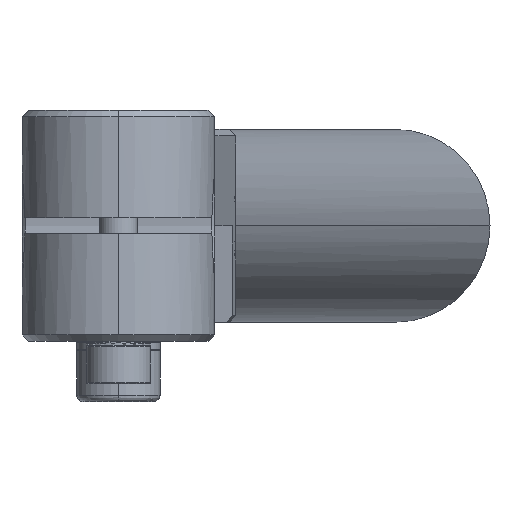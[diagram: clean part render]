
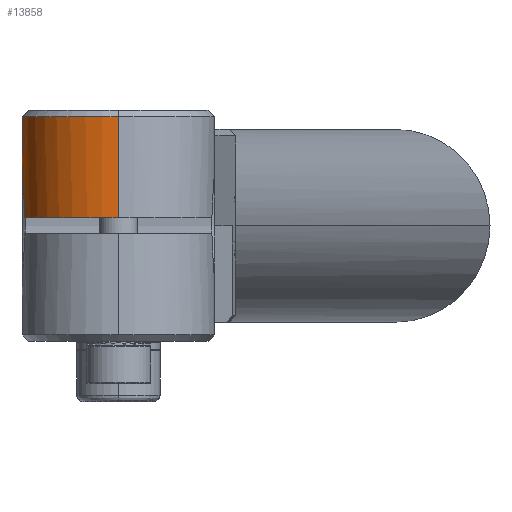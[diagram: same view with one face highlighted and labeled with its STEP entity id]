
A CAD part, left-side view. The second image highlights one B-rep face of the part: STEP entity #13858.
In plain terms, the highlighted cylindrical face has radius 15 mm (diameter 30 mm), a partial arc.
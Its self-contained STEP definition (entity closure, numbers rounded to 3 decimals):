
#127 = CARTESIAN_POINT ( 'NONE',  ( 14.923, 42.413, 6.534 ) ) ;
#1121 = FACE_OUTER_BOUND ( 'NONE', #22830, .T. ) ;
#1309 = CARTESIAN_POINT ( 'NONE',  ( 2.071, 27.564, 17. ) ) ;
#1477 = CARTESIAN_POINT ( 'NONE',  ( 17.071, 42.564, 17. ) ) ;
#1595 = VECTOR ( 'NONE', #5335, 1000. ) ;
#1640 = DIRECTION ( 'NONE',  ( -1., 0., 0. ) ) ;
#2233 = CARTESIAN_POINT ( 'NONE',  ( 16.103, 42.539, 8.573 ) ) ;
#3173 = EDGE_CURVE ( 'NONE', #5479, #7105, #7845, .T. ) ;
#3349 = DIRECTION ( 'NONE',  ( -1., 0., 0. ) ) ;
#4097 = CIRCLE ( 'NONE', #13882, 15. ) ;
#4237 = CARTESIAN_POINT ( 'NONE',  ( 17.071, 27.564, 17. ) ) ;
#4349 = CARTESIAN_POINT ( 'NONE',  ( 17.071, 42.564, 9.811 ) ) ;
#5335 = DIRECTION ( 'NONE',  ( 0., 0., 1. ) ) ;
#5381 = CARTESIAN_POINT ( 'NONE',  ( 17.071, 27.564, 17. ) ) ;
#5479 = VERTEX_POINT ( 'NONE', #8843 ) ;
#6246 = AXIS2_PLACEMENT_3D ( 'NONE', #5381, #15887, #3349 ) ;
#6345 = DIRECTION ( 'NONE',  ( -1., 0., 0. ) ) ;
#6712 = CARTESIAN_POINT ( 'NONE',  ( 17.071, 42.564, 9.125 ) ) ;
#7105 = VERTEX_POINT ( 'NONE', #1477 ) ;
#7845 = LINE ( 'NONE', #6712, #1595 ) ;
#8696 = EDGE_CURVE ( 'NONE', #7105, #24302, #12970, .T. ) ;
#8843 = CARTESIAN_POINT ( 'NONE',  ( 17.071, 42.564, 9.811 ) ) ;
#8845 = CARTESIAN_POINT ( 'NONE',  ( 2.071, 27.564, 17. ) ) ;
#9253 = ORIENTED_EDGE ( 'NONE', *, *, #24617, .F. ) ;
#10610 = CARTESIAN_POINT ( 'NONE',  ( 13.696, 42.181, 2.814 ) ) ;
#11408 = VERTEX_POINT ( 'NONE', #26743 ) ;
#11450 = LINE ( 'NONE', #8845, #16408 ) ;
#12411 = CYLINDRICAL_SURFACE ( 'NONE', #6246, 15. ) ;
#12709 = CARTESIAN_POINT ( 'NONE',  ( 14.317, 42.312, 5.087 ) ) ;
#12970 = CIRCLE ( 'NONE', #18929, 15. ) ;
#13858 = ADVANCED_FACE ( 'NONE', ( #1121 ), #12411, .T. ) ;
#13882 = AXIS2_PLACEMENT_3D ( 'NONE', #26867, #14243, #1640 ) ;
#14243 = DIRECTION ( 'NONE',  ( 0., 0., -1. ) ) ;
#14840 = CARTESIAN_POINT ( 'NONE',  ( 15.281, 42.463, 7.234 ) ) ;
#15887 = DIRECTION ( 'NONE',  ( 0., 0., -1. ) ) ;
#16408 = VECTOR ( 'NONE', #19391, 1000. ) ;
#16721 = EDGE_CURVE ( 'NONE', #18610, #5479, #25858, .T. ) ;
#16983 = CARTESIAN_POINT ( 'NONE',  ( 16.562, 42.564, 9.209 ) ) ;
#18565 = ORIENTED_EDGE ( 'NONE', *, *, #3173, .F. ) ;
#18610 = VERTEX_POINT ( 'NONE', #21494 ) ;
#18929 = AXIS2_PLACEMENT_3D ( 'NONE', #4237, #18993, #6345 ) ;
#18993 = DIRECTION ( 'NONE',  ( 0., 0., 1. ) ) ;
#19037 = CARTESIAN_POINT ( 'NONE',  ( 13.503, 42.134, 1.25 ) ) ;
#19391 = DIRECTION ( 'NONE',  ( 0., 0., -1. ) ) ;
#21121 = CARTESIAN_POINT ( 'NONE',  ( 13.569, 42.15, 2.035 ) ) ;
#21494 = CARTESIAN_POINT ( 'NONE',  ( 13.503, 42.134, 1.25 ) ) ;
#22830 = EDGE_LOOP ( 'NONE', ( #9253, #23850, #18565, #23117, #24464 ) ) ;
#23117 = ORIENTED_EDGE ( 'NONE', *, *, #16721, .F. ) ;
#23850 = ORIENTED_EDGE ( 'NONE', *, *, #8696, .F. ) ;
#24302 = VERTEX_POINT ( 'NONE', #1309 ) ;
#24464 = ORIENTED_EDGE ( 'NONE', *, *, #25474, .F. ) ;
#24617 = EDGE_CURVE ( 'NONE', #24302, #11408, #11450, .T. ) ;
#25347 = CARTESIAN_POINT ( 'NONE',  ( 14.07, 42.262, 4.338 ) ) ;
#25474 = EDGE_CURVE ( 'NONE', #11408, #18610, #4097, .T. ) ;
#25858 = B_SPLINE_CURVE_WITH_KNOTS ( 'NONE', 3,
 ( #19037, #21121, #10610, #25347, #12709, #127, #14840, #2233, #16983, #4349 ),
 .UNSPECIFIED., .F., .F.,
 ( 4, 2, 2, 2, 4 ),
 ( 0., 0.002, 0.005, 0.007, 0.009 ),
 .UNSPECIFIED. ) ;
#26743 = CARTESIAN_POINT ( 'NONE',  ( 2.071, 27.564, 1.25 ) ) ;
#26867 = CARTESIAN_POINT ( 'NONE',  ( 17.071, 27.564, 1.25 ) ) ;
